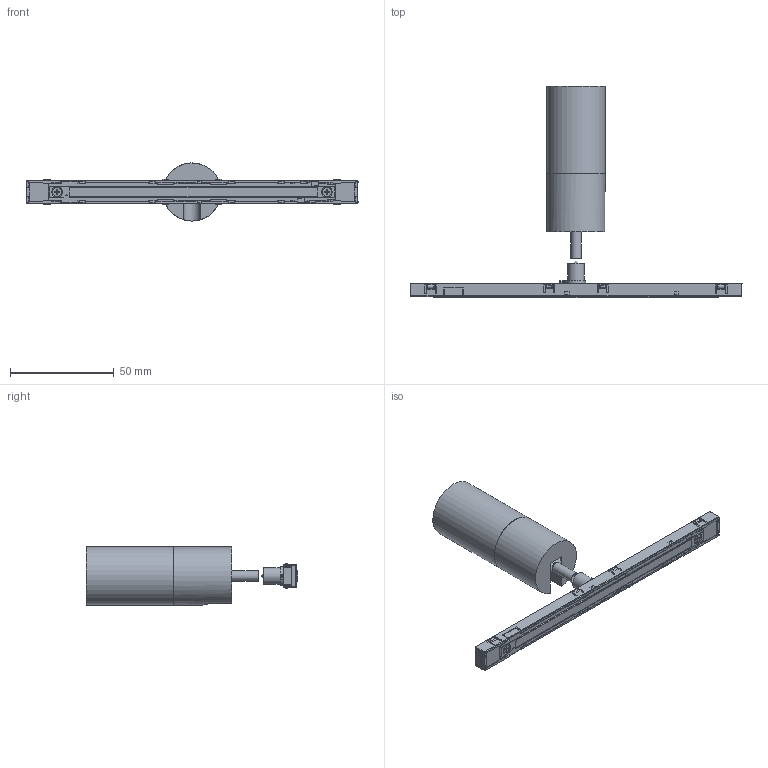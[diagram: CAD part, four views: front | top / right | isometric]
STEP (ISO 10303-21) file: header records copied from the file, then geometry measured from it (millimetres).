
FILE_DESCRIPTION(/* description */ (''),/* implementation_level */ '2;1');
FILE_NAME(/* name */ 'COLIBRI 28.stp',/* time_stamp */ '2023-11-15T16:32:17+01:00',/* author */ ('n.bisotti'),/* organization */ (''),/* preprocessor_version */ 'ST-DEVELOPER v19.2',/* originating_system */ 'Autodesk Inventor 2023',/* authorisation */ '');
FILE_SCHEMA (('AUTOMOTIVE_DESIGN { 1 0 10303 214 3 1 1 }'));
Length unit declared in the file: centimetre
Products named in the file (1): Parte4
Bounding box: 160.11 x 101.79 x 28 mm (x, y, z)
Volume: 42726.1 mm3; surface area: 24461 mm2
Topology: 15 solids, 15 shells, 1257 faces, 3380 edges, 2150 vertices
Faces by surface type: plane 724, cylinder 260, bspline 148, cone 56, torus 35, sphere 34
Full cylindrical faces by diameter (mm): 2 x2, 2.7 x1, 3 x1, 3.3 x1, 4.2 x1, 4.3 x2, 5 x5, 5.15 x1, 7 x1, 8 x2, 20.7 x1, 22 x1, 22.85 x1, 23.46 x1, 23.5 x1, 24.5 x1, 28 x2
Entity records: 49514 total; most frequent: CARTESIAN_POINT 17653, ORIENTED_EDGE 6696, DIRECTION 6106, EDGE_CURVE 3348, VERTEX_POINT 2152, LINE 2090, VECTOR 2090, AXIS2_PLACEMENT_3D 2008
